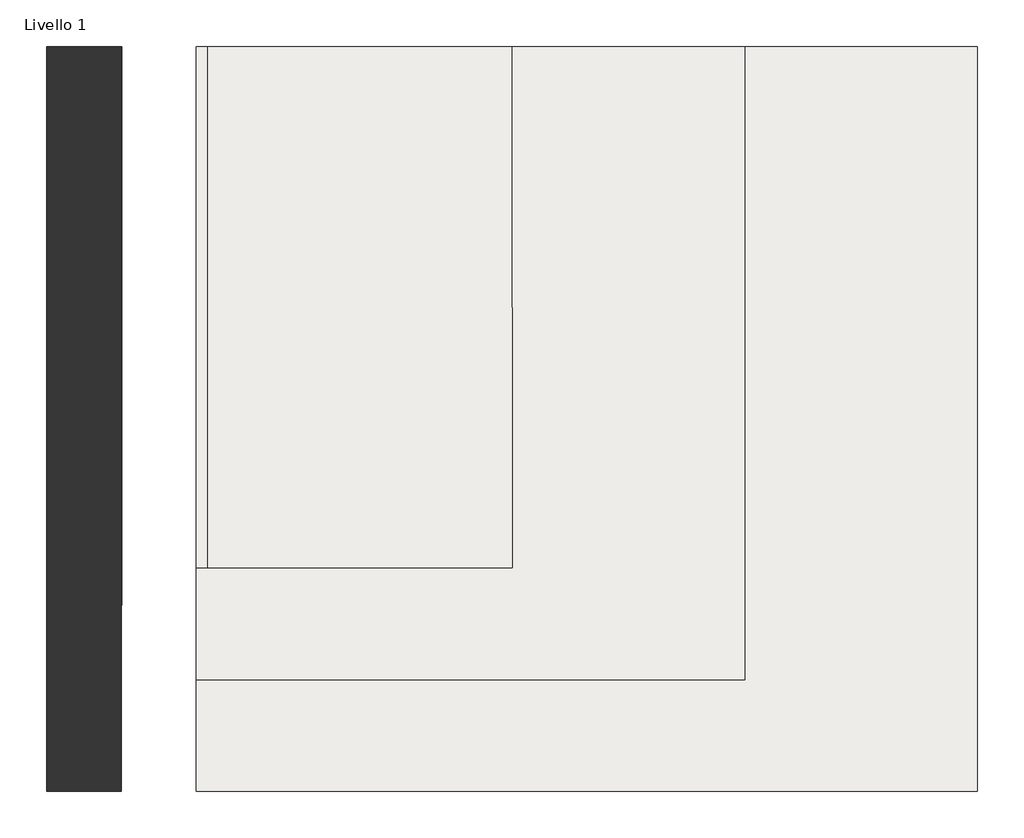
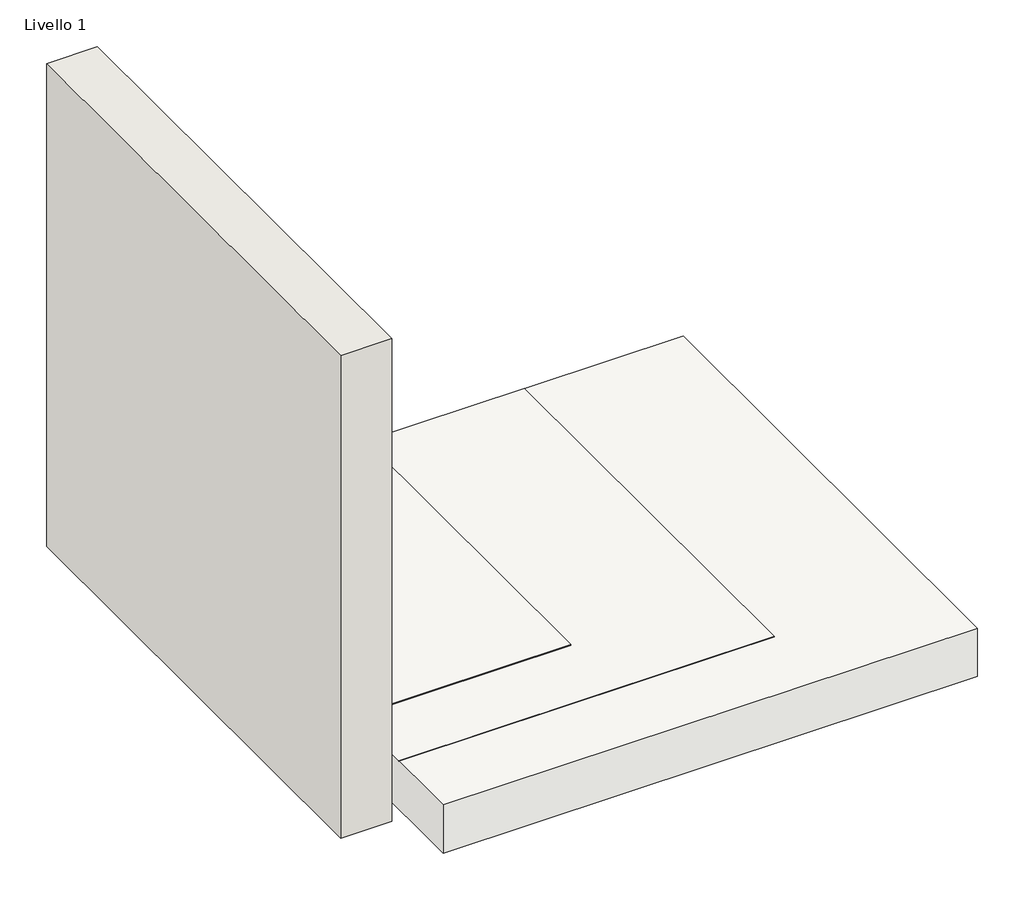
# One storey: 2 slabs, 1 wall.
"""IFC4 building model written with IfcOpenShell, lengths in millimetres."""

from ifc_helpers import new_model, si_unit, frame, origin, place, context, project, spatial, polyline, outline, extrude, element, save

model = new_model("IFC4")

# Units and contexts
model_context = context("Model", 3, world=origin())
ifc_project = project(units=[si_unit("LENGTHUNIT", "METRE", prefix="MILLI")], contexts=[model_context])

# Site, building, storey
site = spatial("IfcSite", under=ifc_project)
building = spatial("IfcBuilding", under=site)
storey = spatial("IfcBuildingStorey", under=building, Name="Livello 1", Elevation=0.0)

# Slabs
placement = place(None, origin())
element("IfcSlab", 1, ObjectType="MAPEI - Impermeabilização de estruturas enterradas com sistema misto (bentonítico e cimentício)", at=placement, inside=storey, context=model_context, shape_type="SweptSolid", body=[
    extrude(outline(polyline([(2707.7963918, 184.9122843), (609.9963918, 184.9122843), (609.9963918, 2184.9122843), (2707.7963918, 2184.9122843), (2707.7963918, 184.9122843)])), frame((0.0, 0.0, -207.2), z_axis=(0.0, 0.0, 1.0), x_axis=(1.0, 0.0, 0.0)), (0.0, 0.0, 1.0), 200.0),
    extrude(outline(polyline([(1457.7963918, 784.9122843), (609.9963918, 784.9122843), (609.9963918, 2184.9122843), (1457.7963918, 2184.9122843), (1457.7963918, 784.9122843)])), frame((0.0, 0.0, -5.0), z_axis=(0.0, 0.0, 1.0), x_axis=(1.0, 0.0, 0.0)), (0.0, 0.0, 1.0), 5.0),
    extrude(outline(polyline([(2082.7963918, 484.9122843), (609.9963918, 484.9122843), (609.9963918, 2184.9122843), (2082.7963918, 2184.9122843), (2082.7963918, 484.9122843)])), frame((0.0, 0.0, -7.2), z_axis=(0.0, 0.0, 1.0), x_axis=(1.0, 0.0, 0.0)), (0.0, 0.0, 1.0), 2.2),
])
element("IfcSlab", 2, ObjectType="MAPEI - Vedaçao com Mapeproof Mastic", at=placement, inside=storey, context=model_context, shape_type="SweptSolid", body=[
    extrude(outline(polyline([(639.9963918, 2184.9122843), (639.9963918, 784.9122843), (609.9963918, 784.9122843), (609.9963918, 2184.9122843), (639.9963918, 2184.9122843)])), frame((0.0, 0.0, -5.0), z_axis=(0.0, 0.0, 1.0), x_axis=(1.0, 0.0, 0.0)), (0.0, 0.0, 1.0), 5.0),
])

# Wall
element("IfcWall", 3, ObjectType="MAPEI - Impermeabilização de estruturas enterradas com sistema misto (bentonítico e cimentício)", at=placement, inside=storey, context=model_context, shape_type="SweptSolid", body=[
    extrude(outline(polyline([(207.7963918, 184.9122843), (207.7963918, 2184.9122843), (407.7963918, 2184.9122843), (407.7963918, 184.9122843), (207.7963918, 184.9122843)])), frame((0.0, 0.0, -5.0), z_axis=(0.0, 0.0, 1.0), x_axis=(1.0, 0.0, 0.0)), (0.0, 0.0, 1.0), 2005.0),
    extrude(outline(polyline([(409.9963918, 2184.9122843), (409.9963918, 684.9122843), (407.7963918, 684.9122843), (407.7963918, 2184.9122843), (409.9963918, 2184.9122843)])), frame((0.0, 0.0, -5.0), z_axis=(0.0, 0.0, 1.0), x_axis=(1.0, 0.0, 0.0)), (0.0, 0.0, 1.0), 1405.0),
])

save(model, "model.ifc")
